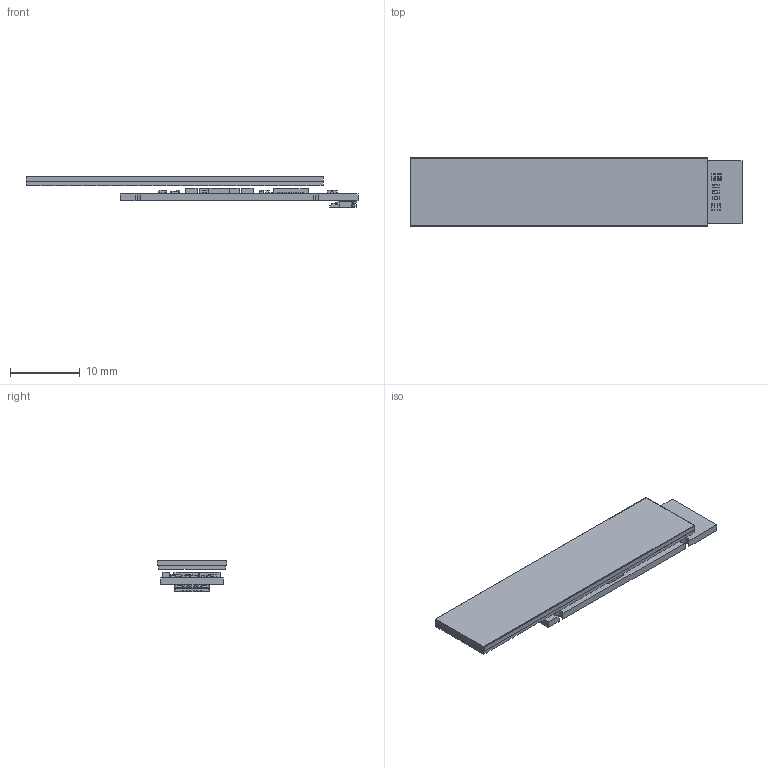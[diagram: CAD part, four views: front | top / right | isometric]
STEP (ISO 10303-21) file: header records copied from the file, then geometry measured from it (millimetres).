
FILE_DESCRIPTION((''),'2;1');
FILE_NAME('2_ASM','2026-09-02T',('guxinfeng'),(''),'PRO/ENGINEER BY PARAMETRIC TECHNOLOGY CORPORATION, 2012480','PRO/ENGINEER BY PARAMETRIC TECHNOLOGY CORPORATION, 2012480','');
FILE_SCHEMA(('CONFIG_CONTROL_DESIGN'));
Length unit declared in the file: millimetre
Products named in the file (108): OPEN_CASCADE_STEP_TRANSLATO-195; OPEN_CASCADE_STEP_TRANSLATO-185_ASM; BOARD_ASM_1_ASM; MID_BODY-982_1; OPEN_CASCADE_STEP_TRANSLAT-1168; TERMINAL-1158_ASM_1_ASM; MARK-1480_1; 8142030928_ASM_1_ASM; R19_ASM_1_ASM; OPEN_CASCADE_STEP_TRANSLAT-1720; OPEN_CASCADE_STEP_TRANSLAT-2193; TERMINAL-1706_ASM_1_ASM; OPEN_CASCADE_STEP_TRANSLAT-2689; MID_BODY-2679_ASM_1_ASM; 8592301712_ASM_1_ASM; C51_ASM_1_ASM; C47_ASM_1_ASM; OPEN_CASCADE_STEP_TRANSLAT-3103; OPEN_CASCADE_STEP_TRANSLAT-3576; TERMINAL-3089_ASM_1_ASM; OPEN_CASCADE_STEP_TRANSLAT-4072; MID_BODY-4062_ASM_1_ASM; 8900176288_ASM_1_ASM; C30_ASM_1_ASM; C14_ASM_1_ASM; C31_ASM_1_ASM; C32_ASM_1_ASM; MID_BODY-4529_1; OPEN_CASCADE_STEP_TRANSLAT-4715; TERMINAL-4705_ASM_1_ASM; MARK-5027_1; 8900179728_ASM_1_ASM; R16_ASM_1_ASM; OPEN_CASCADE_STEP_TRANSLAT-5267; OPEN_CASCADE_STEP_TRANSLAT-5740; TERMINAL-5253_ASM_1_ASM; OPEN_CASCADE_STEP_TRANSLAT-6236; MID_BODY-6226_ASM_1_ASM; 8900173328_ASM_1_ASM; C12_ASM_1_ASM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
Assembly tree (131 placements, depth 8):
  2_ASM
    ELS-005-030_ASP_V1_0_ASM_6_ASM
      PCB_ASM_1_ASM
        BOARD_ASM_1_ASM
          OPEN_CASCADE_STEP_TRANSLATO-185_ASM
            OPEN_CASCADE_STEP_TRANSLATO-195
        R19_ASM_1_ASM
          8142030928_ASM_1_ASM
            MID_BODY-982_1
            TERMINAL-1158_ASM_1_ASM  x2
              OPEN_CASCADE_STEP_TRANSLAT-1168
            MARK-1480_1
        C51_ASM_1_ASM
          8592301712_ASM_1_ASM
            TERMINAL-1706_ASM_1_ASM
              OPEN_CASCADE_STEP_TRANSLAT-1720
              OPEN_CASCADE_STEP_TRANSLAT-2193
            MID_BODY-2679_ASM_1_ASM
              OPEN_CASCADE_STEP_TRANSLAT-2689
        C47_ASM_1_ASM
          8592301712_ASM_1_ASM
            TERMINAL-1706_ASM_1_ASM
              OPEN_CASCADE_STEP_TRANSLAT-1720
              OPEN_CASCADE_STEP_TRANSLAT-2193
            MID_BODY-2679_ASM_1_ASM
              OPEN_CASCADE_STEP_TRANSLAT-2689
        C30_ASM_1_ASM
          8900176288_ASM_1_ASM
            TERMINAL-3089_ASM_1_ASM
              OPEN_CASCADE_STEP_TRANSLAT-3103
              OPEN_CASCADE_STEP_TRANSLAT-3576
            MID_BODY-4062_ASM_1_ASM
              OPEN_CASCADE_STEP_TRANSLAT-4072
        C14_ASM_1_ASM
          8900176288_ASM_1_ASM
            TERMINAL-3089_ASM_1_ASM
              OPEN_CASCADE_STEP_TRANSLAT-3103
              OPEN_CASCADE_STEP_TRANSLAT-3576
            MID_BODY-4062_ASM_1_ASM
              OPEN_CASCADE_STEP_TRANSLAT-4072
        C31_ASM_1_ASM
          8900176288_ASM_1_ASM
            TERMINAL-3089_ASM_1_ASM
              OPEN_CASCADE_STEP_TRANSLAT-3103
              OPEN_CASCADE_STEP_TRANSLAT-3576
            MID_BODY-4062_ASM_1_ASM
              OPEN_CASCADE_STEP_TRANSLAT-4072
        C32_ASM_1_ASM
          8900176288_ASM_1_ASM
            TERMINAL-3089_ASM_1_ASM
              OPEN_CASCADE_STEP_TRANSLAT-3103
              OPEN_CASCADE_STEP_TRANSLAT-3576
            MID_BODY-4062_ASM_1_ASM
              OPEN_CASCADE_STEP_TRANSLAT-4072
        R16_ASM_1_ASM
          8900179728_ASM_1_ASM
            MID_BODY-4529_1
            TERMINAL-4705_ASM_1_ASM  x2
              OPEN_CASCADE_STEP_TRANSLAT-4715
            MARK-5027_1
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Bounding box: 47.44 x 9.9 x 4.55 mm (x, y, z)
Volume: 898.4 mm3; surface area: 4481.8 mm2
Topology: 102 solids, 102 shells, 2188 faces, 5764 edges, 3627 vertices
Faces by surface type: plane 1626, cylinder 432, sphere 130
Entity records: 51046 total; most frequent: CARTESIAN_POINT 7296, DIRECTION 6963, ORIENTED_EDGE 6788, EDGE_CURVE 3394, VECTOR 3025, LINE 3025, PRESENTATION_STYLE_ASSIGNMENT 2578, STYLED_ITEM 2518
